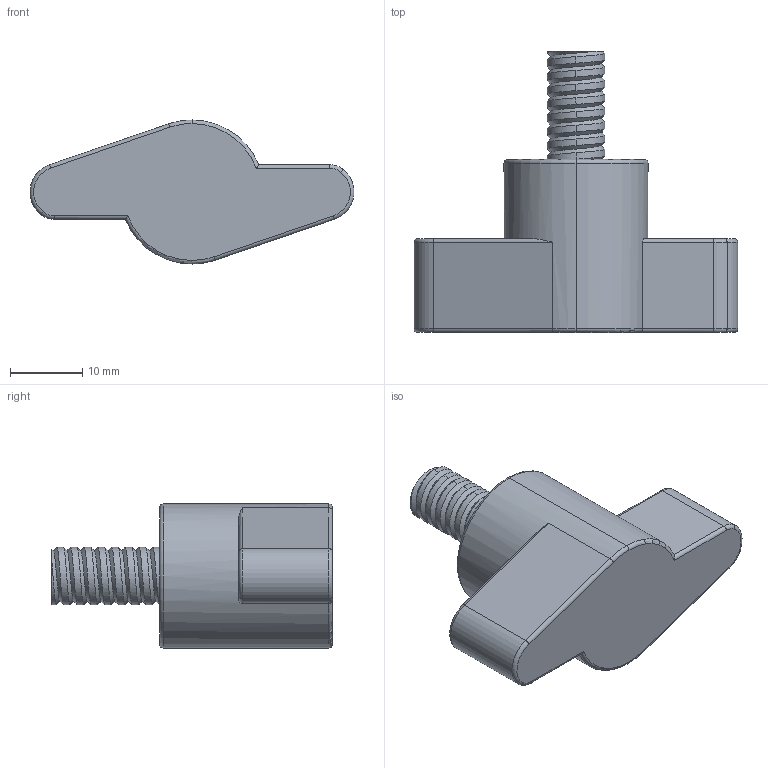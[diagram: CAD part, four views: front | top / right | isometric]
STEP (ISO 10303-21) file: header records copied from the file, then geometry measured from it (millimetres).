
FILE_DESCRIPTION (( 'STEP AP203' ), '1' );
FILE_NAME ('AP-2061-45-M8-15.STEP', '2015-11-23T07:31:12', ( '' ), ( '' ), 'SwSTEP 2.0', 'SolidWorks 2014', '' );
FILE_SCHEMA (( 'CONFIG_CONTROL_DESIGN' ));
Length unit declared in the file: millimetre
Products named in the file (1): AP-2061-45-M8-15
Bounding box: 44.98 x 39 x 20 mm (x, y, z)
Volume: 7410.2 mm3; surface area: 5816.8 mm2
Topology: 1 solids, 1 shells, 85 faces, 220 edges, 139 vertices
Faces by surface type: cylinder 45, plane 25, torus 13, bspline 2
Entity records: 3575 total; most frequent: CARTESIAN_POINT 1489, ORIENTED_EDGE 440, DIRECTION 424, EDGE_CURVE 220, AXIS2_PLACEMENT_3D 166, VERTEX_POINT 139, VECTOR 92, LINE 92
